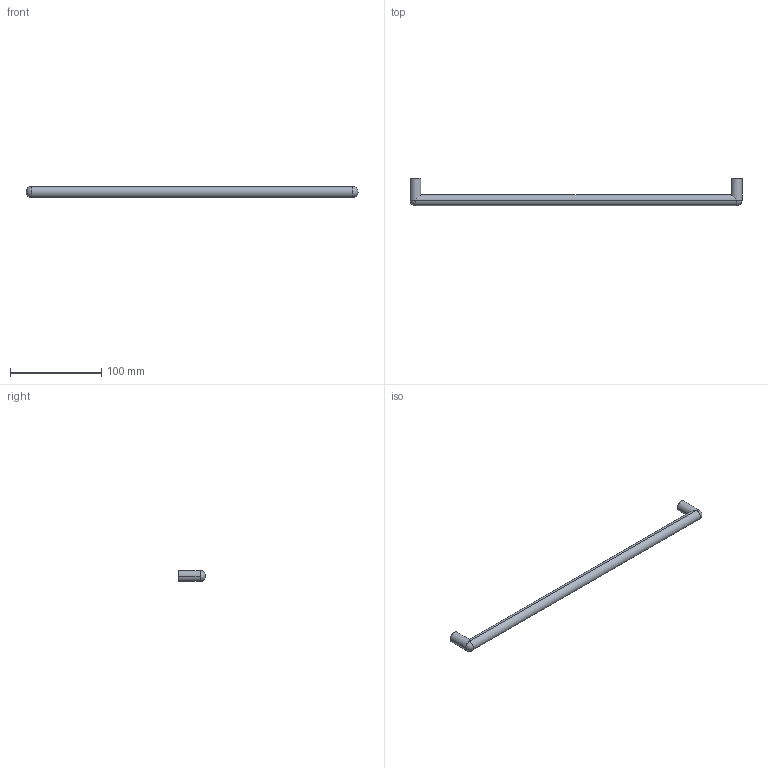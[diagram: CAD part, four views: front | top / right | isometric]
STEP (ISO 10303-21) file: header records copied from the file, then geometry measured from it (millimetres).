
FILE_DESCRIPTION( ( '' ), '1' );
FILE_NAME( 'D:/1.AUTOCAD EXPORT/Group 10/sheet_10_1/ 9070977.stp', '2013-10-17T08:24:01', ( '' ), ( '' ), ' ', ' ', ' ' );
FILE_SCHEMA( ( 'automotive_design' ) );
Length unit declared in the file: millimetre
Products named in the file (1): 1
Bounding box: 364 x 30 x 12 mm (x, y, z)
Volume: 44722.6 mm3; surface area: 15558.2 mm2
Topology: 1 solids, 1 shells, 16 faces, 36 edges, 20 vertices
Faces by surface type: cylinder 10, plane 4, sphere 2
Entity records: 838 total; most frequent: DIRECTION 88, STYLED_ITEM 69, PRESENTATION_STYLE_ASSIGNMENT 69, CARTESIAN_POINT 69, COLOUR_RGB 69, ORIENTED_EDGE 64, AXIS2_PLACEMENT_3D 39, EDGE_CURVE 32
